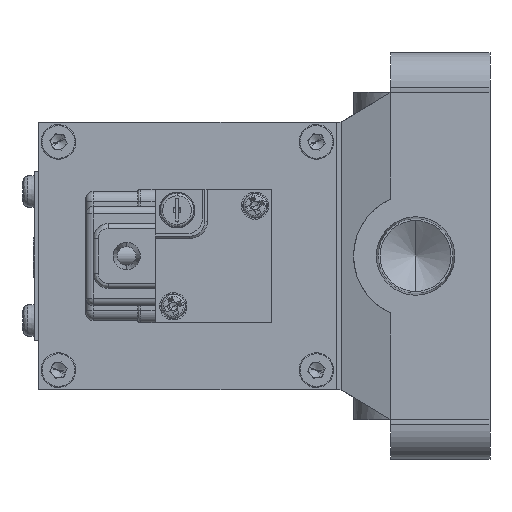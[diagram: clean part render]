
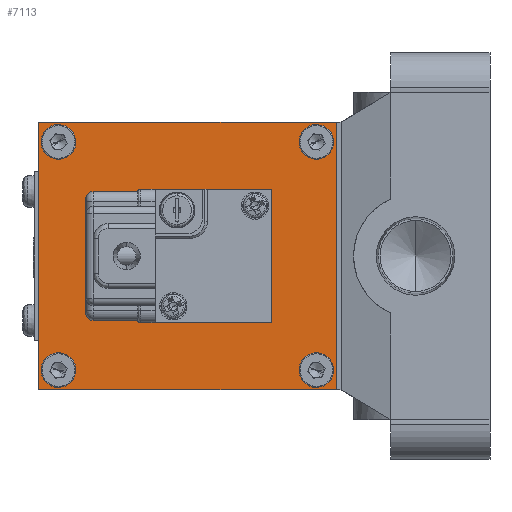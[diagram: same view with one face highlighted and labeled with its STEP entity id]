
A CAD part, left-side view. The second image highlights one B-rep face of the part: STEP entity #7113.
In plain terms, the highlighted planar face has unit normal (-1, 0, 0) as drawn and (1, 0, 0) by its records, which use the part's own axes.
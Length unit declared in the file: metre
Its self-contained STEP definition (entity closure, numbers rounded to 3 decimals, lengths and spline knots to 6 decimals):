
#114 = ORIENTED_EDGE ( 'NONE', *, *, #4243, .T. ) ;
#154 = AXIS2_PLACEMENT_3D ( 'NONE', #11235, #2938, #12649 ) ;
#229 = CIRCLE ( 'NONE', #4744, 0.002 ) ;
#479 = EDGE_LOOP ( 'NONE', ( #14785, #621 ) ) ;
#511 = EDGE_CURVE ( 'NONE', #13511, #7740, #2307, .T. ) ;
#621 = ORIENTED_EDGE ( 'NONE', *, *, #17709, .T. ) ;
#883 = DIRECTION ( 'NONE',  ( 0., 0., -1. ) ) ;
#923 = DIRECTION ( 'NONE',  ( 0., 0., -1. ) ) ;
#1077 = CIRCLE ( 'NONE', #13054, 0.002 ) ;
#1166 = CARTESIAN_POINT ( 'NONE',  ( 0.051, 0.091, -0.027 ) ) ;
#1338 = EDGE_CURVE ( 'NONE', #17345, #13161, #11609, .T. ) ;
#1443 = FACE_BOUND ( 'NONE', #9436, .T. ) ;
#1467 = VECTOR ( 'NONE', #8047, 1. ) ;
#1934 = CARTESIAN_POINT ( 'NONE',  ( 0.051, 0.031, -0.027 ) ) ;
#1964 = EDGE_CURVE ( 'NONE', #7672, #11414, #4642, .T. ) ;
#2101 = CARTESIAN_POINT ( 'NONE',  ( 0.051, 0.087, 0.021 ) ) ;
#2234 = LINE ( 'NONE', #16177, #5460 ) ;
#2307 = CIRCLE ( 'NONE', #8194, 0.002 ) ;
#2529 = CIRCLE ( 'NONE', #17735, 0.002 ) ;
#2596 = CARTESIAN_POINT ( 'NONE',  ( 0.051, 0.035, 0.025 ) ) ;
#2750 = DIRECTION ( 'NONE',  ( -1., 0., 0. ) ) ;
#2859 = DIRECTION ( 'NONE',  ( 0., 1., 0. ) ) ;
#2908 = ORIENTED_EDGE ( 'NONE', *, *, #12055, .F. ) ;
#2938 = DIRECTION ( 'NONE',  ( -1., 0., 0. ) ) ;
#3259 = VERTEX_POINT ( 'NONE', #1934 ) ;
#3788 = DIRECTION ( 'NONE',  ( 1., 0., 0. ) ) ;
#3941 = ORIENTED_EDGE ( 'NONE', *, *, #17086, .T. ) ;
#4200 = VECTOR ( 'NONE', #9110, 1. ) ;
#4207 = VERTEX_POINT ( 'NONE', #12339 ) ;
#4243 = EDGE_CURVE ( 'NONE', #13161, #17345, #1077, .T. ) ;
#4597 = DIRECTION ( 'NONE',  ( -1., 0., 0. ) ) ;
#4642 = LINE ( 'NONE', #8965, #4200 ) ;
#4744 = AXIS2_PLACEMENT_3D ( 'NONE', #6019, #15795, #7396 ) ;
#5110 = FACE_BOUND ( 'NONE', #5312, .T. ) ;
#5131 = LINE ( 'NONE', #16463, #1467 ) ;
#5312 = EDGE_LOOP ( 'NONE', ( #10421, #114 ) ) ;
#5460 = VECTOR ( 'NONE', #883, 1. ) ;
#5502 = CARTESIAN_POINT ( 'NONE',  ( 0.051, 0.087, -0.025 ) ) ;
#6019 = CARTESIAN_POINT ( 'NONE',  ( 0.051, 0.035, 0.023 ) ) ;
#6349 = VERTEX_POINT ( 'NONE', #14829 ) ;
#6515 = VERTEX_POINT ( 'NONE', #2596 ) ;
#6516 = ORIENTED_EDGE ( 'NONE', *, *, #17507, .T. ) ;
#6643 = LINE ( 'NONE', #15395, #14520 ) ;
#6901 = DIRECTION ( 'NONE',  ( -1., 0., 0. ) ) ;
#7083 = CARTESIAN_POINT ( 'NONE',  ( 0.051, 0.035, -0.021 ) ) ;
#7089 = CARTESIAN_POINT ( 'NONE',  ( 0.051, 0.087, -0.023 ) ) ;
#7113 = ADVANCED_FACE ( 'NONE', ( #16256, #12510, #5110, #1443, #15818 ), #16292, .T. ) ;
#7396 = DIRECTION ( 'NONE',  ( 0., 0., -1. ) ) ;
#7591 = EDGE_CURVE ( 'NONE', #7740, #13511, #17119, .T. ) ;
#7672 = VERTEX_POINT ( 'NONE', #1166 ) ;
#7740 = VERTEX_POINT ( 'NONE', #7847 ) ;
#7847 = CARTESIAN_POINT ( 'NONE',  ( 0.051, 0.035, -0.025 ) ) ;
#7919 = CARTESIAN_POINT ( 'NONE',  ( 0.051, 0.087, -0.021 ) ) ;
#7944 = DIRECTION ( 'NONE',  ( 1., 0., 0. ) ) ;
#8047 = DIRECTION ( 'NONE',  ( 0., -1., 0. ) ) ;
#8066 = CARTESIAN_POINT ( 'NONE',  ( 0.051, 0.091, 0.027 ) ) ;
#8120 = ORIENTED_EDGE ( 'NONE', *, *, #511, .T. ) ;
#8194 = AXIS2_PLACEMENT_3D ( 'NONE', #15287, #6901, #16713 ) ;
#8322 = EDGE_CURVE ( 'NONE', #4207, #3259, #2234, .T. ) ;
#8482 = DIRECTION ( 'NONE',  ( 0., 0., -1. ) ) ;
#8791 = ORIENTED_EDGE ( 'NONE', *, *, #1964, .T. ) ;
#8807 = EDGE_CURVE ( 'NONE', #6349, #6515, #229, .T. ) ;
#8965 = CARTESIAN_POINT ( 'NONE',  ( 0.051, 0.091, 0. ) ) ;
#9110 = DIRECTION ( 'NONE',  ( 0., 0., 1. ) ) ;
#9215 = DIRECTION ( 'NONE',  ( -1., 0., 0. ) ) ;
#9221 = CARTESIAN_POINT ( 'NONE',  ( 0.051, 0.087, 0.025 ) ) ;
#9436 = EDGE_LOOP ( 'NONE', ( #11275, #2908 ) ) ;
#9968 = AXIS2_PLACEMENT_3D ( 'NONE', #12936, #4597, #14335 ) ;
#10030 = AXIS2_PLACEMENT_3D ( 'NONE', #16364, #7944, #17764 ) ;
#10421 = ORIENTED_EDGE ( 'NONE', *, *, #1338, .T. ) ;
#10444 = CIRCLE ( 'NONE', #10030, 0.002 ) ;
#11046 = CARTESIAN_POINT ( 'NONE',  ( 0.051, 0.087, 0.023 ) ) ;
#11235 = CARTESIAN_POINT ( 'NONE',  ( 0.051, 0.035, 0.023 ) ) ;
#11275 = ORIENTED_EDGE ( 'NONE', *, *, #15829, .F. ) ;
#11414 = VERTEX_POINT ( 'NONE', #8066 ) ;
#11609 = CIRCLE ( 'NONE', #9968, 0.002 ) ;
#11821 = AXIS2_PLACEMENT_3D ( 'NONE', #17615, #9215, #923 ) ;
#12055 = EDGE_CURVE ( 'NONE', #13213, #12674, #2529, .T. ) ;
#12339 = CARTESIAN_POINT ( 'NONE',  ( 0.051, 0.031, 0.027 ) ) ;
#12457 = DIRECTION ( 'NONE',  ( 0., 0., -1. ) ) ;
#12485 = ORIENTED_EDGE ( 'NONE', *, *, #8322, .T. ) ;
#12510 = FACE_BOUND ( 'NONE', #17343, .T. ) ;
#12649 = DIRECTION ( 'NONE',  ( 0., 0., -1. ) ) ;
#12674 = VERTEX_POINT ( 'NONE', #5502 ) ;
#12936 = CARTESIAN_POINT ( 'NONE',  ( 0.051, 0.087, 0.023 ) ) ;
#13054 = AXIS2_PLACEMENT_3D ( 'NONE', #11046, #2750, #12457 ) ;
#13161 = VERTEX_POINT ( 'NONE', #9221 ) ;
#13213 = VERTEX_POINT ( 'NONE', #7919 ) ;
#13511 = VERTEX_POINT ( 'NONE', #7083 ) ;
#13517 = DIRECTION ( 'NONE',  ( 0., 0., -1. ) ) ;
#14335 = DIRECTION ( 'NONE',  ( 0., 0., -1. ) ) ;
#14520 = VECTOR ( 'NONE', #2859, 1. ) ;
#14785 = ORIENTED_EDGE ( 'NONE', *, *, #8807, .T. ) ;
#14829 = CARTESIAN_POINT ( 'NONE',  ( 0.051, 0.035, 0.021 ) ) ;
#15287 = CARTESIAN_POINT ( 'NONE',  ( 0.051, 0.035, -0.023 ) ) ;
#15346 = AXIS2_PLACEMENT_3D ( 'NONE', #17692, #3788, #13517 ) ;
#15395 = CARTESIAN_POINT ( 'NONE',  ( 0.051, 0.061, -0.027 ) ) ;
#15795 = DIRECTION ( 'NONE',  ( -1., 0., 0. ) ) ;
#15807 = ORIENTED_EDGE ( 'NONE', *, *, #7591, .T. ) ;
#15818 = FACE_OUTER_BOUND ( 'NONE', #16020, .T. ) ;
#15829 = EDGE_CURVE ( 'NONE', #12674, #13213, #10444, .T. ) ;
#16020 = EDGE_LOOP ( 'NONE', ( #12485, #3941, #8791, #6516 ) ) ;
#16177 = CARTESIAN_POINT ( 'NONE',  ( 0.051, 0.031, 0. ) ) ;
#16256 = FACE_BOUND ( 'NONE', #479, .T. ) ;
#16292 = PLANE ( 'NONE',  #15346 ) ;
#16364 = CARTESIAN_POINT ( 'NONE',  ( 0.051, 0.087, -0.023 ) ) ;
#16463 = CARTESIAN_POINT ( 'NONE',  ( 0.051, 0.061, 0.027 ) ) ;
#16713 = DIRECTION ( 'NONE',  ( 0., 0., -1. ) ) ;
#16893 = DIRECTION ( 'NONE',  ( 1., 0., 0. ) ) ;
#16932 = CIRCLE ( 'NONE', #154, 0.002 ) ;
#17086 = EDGE_CURVE ( 'NONE', #3259, #7672, #6643, .T. ) ;
#17119 = CIRCLE ( 'NONE', #11821, 0.002 ) ;
#17343 = EDGE_LOOP ( 'NONE', ( #15807, #8120 ) ) ;
#17345 = VERTEX_POINT ( 'NONE', #2101 ) ;
#17507 = EDGE_CURVE ( 'NONE', #11414, #4207, #5131, .T. ) ;
#17615 = CARTESIAN_POINT ( 'NONE',  ( 0.051, 0.035, -0.023 ) ) ;
#17692 = CARTESIAN_POINT ( 'NONE',  ( 0.051, 0.031, 0.027 ) ) ;
#17709 = EDGE_CURVE ( 'NONE', #6515, #6349, #16932, .T. ) ;
#17735 = AXIS2_PLACEMENT_3D ( 'NONE', #7089, #16893, #8482 ) ;
#17764 = DIRECTION ( 'NONE',  ( 0., 0., -1. ) ) ;
